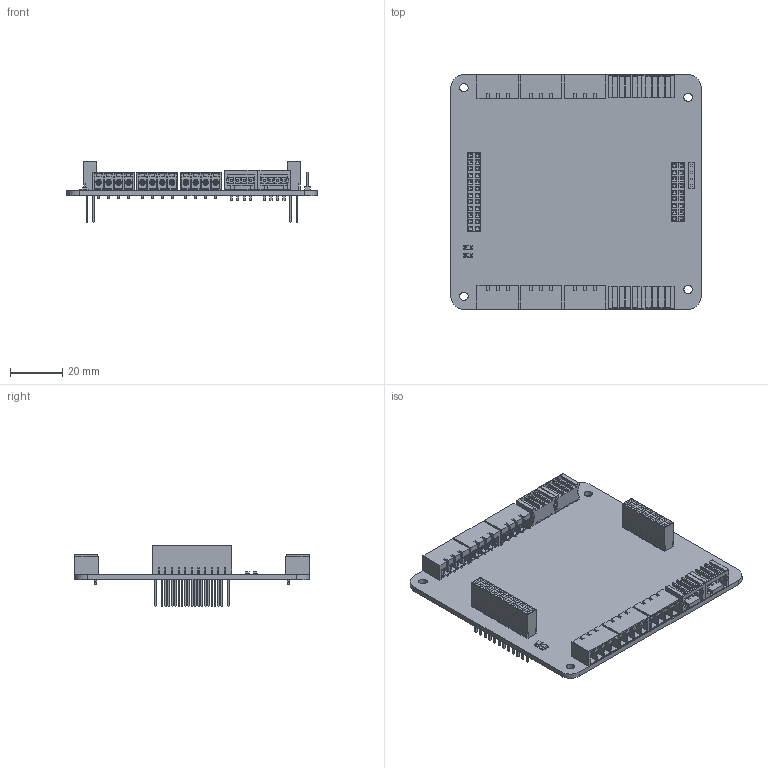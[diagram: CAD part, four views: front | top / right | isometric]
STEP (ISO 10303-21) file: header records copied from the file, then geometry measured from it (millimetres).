
FILE_DESCRIPTION(/* description */ ('PCB CS PWM'),/* implementation_level */ '2;1');
FILE_NAME(/* name */ 'C:\Users\sha\Desktop\100447.Model.stp',/* time_stamp */ '2016-06-21T09:29:30+02:00',/* author */ ('sha'),/* organization */ ('iCsys AS'),/* preprocessor_version */ 'ST-DEVELOPER v16.1',/* originating_system */ 'Autodesk Inventor 2016',/* authorisation */ '');
FILE_SCHEMA (('AUTOMOTIVE_DESIGN { 1 0 10303 214 3 1 1 }'));
Length unit declared in the file: millimetre
Products named in the file (8): 100446.Model; 100088.Model; 100039.Model; 100456.Model; 100343.Model; 100342.Model; 100104.Model; 100447.Model
Assembly tree (16 placements, depth 2):
  100447.Model
    100446.Model
    100088.Model  x4
    100039.Model
    100456.Model  x6
    100343.Model
    100342.Model
    100104.Model  x2
Bounding box: 96 x 90 x 23.24 mm (x, y, z)
Volume: 24664.2 mm3; surface area: 35663.9 mm2
Topology: 16 solids, 16 shells, 3314 faces, 8786 edges, 5704 vertices
Faces by surface type: plane 2930, cylinder 336, torus 24, cone 24
Full cylindrical faces by diameter (mm): 3.2 x4
Entity records: 41382 total; most frequent: CARTESIAN_POINT 7141, ORIENTED_EDGE 6978, DIRECTION 6513, EDGE_CURVE 3489, LINE 3341, VECTOR 3341, VERTEX_POINT 2214, AXIS2_PLACEMENT_3D 1586
